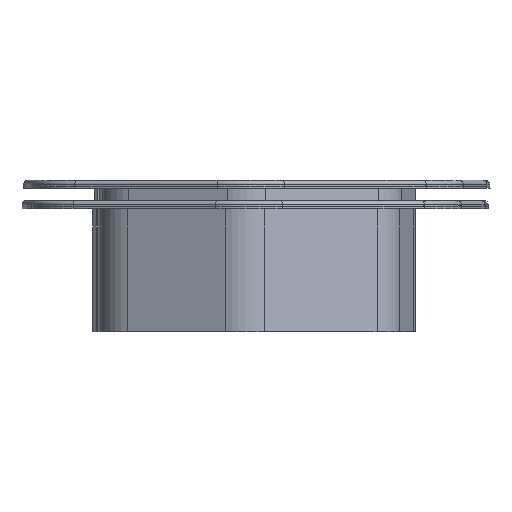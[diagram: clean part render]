
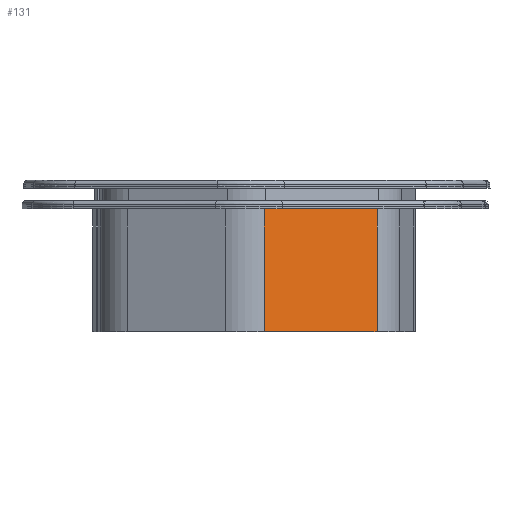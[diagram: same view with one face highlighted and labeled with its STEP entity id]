
A CAD part, left-side view. The second image highlights one B-rep face of the part: STEP entity #131.
In plain terms, the highlighted free-form (B-spline) face has degree [2, 1] with [3, 2] control points.
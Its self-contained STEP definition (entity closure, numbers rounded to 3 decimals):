
#131=ADVANCED_FACE('',(#323),#2885,.T.);
#323=FACE_OUTER_BOUND('',#515,.T.);
#515=EDGE_LOOP('',(#1076,#1077,#1078,#1079));
#1076=ORIENTED_EDGE('',*,*,#1798,.T.);
#1077=ORIENTED_EDGE('',*,*,#1799,.T.);
#1078=ORIENTED_EDGE('',*,*,#1800,.F.);
#1079=ORIENTED_EDGE('',*,*,#1796,.F.);
#1796=EDGE_CURVE('',#2644,#2645,#2269,.T.);
#1798=EDGE_CURVE('',#2644,#2646,#2271,.T.);
#1799=EDGE_CURVE('',#2646,#2647,#2272,.T.);
#1800=EDGE_CURVE('',#2645,#2647,#2273,.T.);
#2269=(
BOUNDED_CURVE()
B_SPLINE_CURVE(1,(#4954,#4955),.UNSPECIFIED.,.F.,.F.)
B_SPLINE_CURVE_WITH_KNOTS((2,2),(0.,300.),.UNSPECIFIED.)
CURVE()
GEOMETRIC_REPRESENTATION_ITEM()
RATIONAL_B_SPLINE_CURVE((1.,1.))
REPRESENTATION_ITEM('')
);
#2271=(
BOUNDED_CURVE()
B_SPLINE_CURVE(2,(#4959,#4960,#4961),.UNSPECIFIED.,.F.,.F.)
B_SPLINE_CURVE_WITH_KNOTS((3,3),(-1038.679,-729.495),
 .UNSPECIFIED.)
CURVE()
GEOMETRIC_REPRESENTATION_ITEM()
RATIONAL_B_SPLINE_CURVE((1.,1.,1.))
REPRESENTATION_ITEM('')
);
#2272=(
BOUNDED_CURVE()
B_SPLINE_CURVE(1,(#4962,#4963),.UNSPECIFIED.,.F.,.F.)
B_SPLINE_CURVE_WITH_KNOTS((2,2),(0.,300.),.UNSPECIFIED.)
CURVE()
GEOMETRIC_REPRESENTATION_ITEM()
RATIONAL_B_SPLINE_CURVE((1.,1.))
REPRESENTATION_ITEM('')
);
#2273=(
BOUNDED_CURVE()
B_SPLINE_CURVE(2,(#4964,#4965,#4966),.UNSPECIFIED.,.F.,.F.)
B_SPLINE_CURVE_WITH_KNOTS((3,3),(-1038.679,-729.495),
 .UNSPECIFIED.)
CURVE()
GEOMETRIC_REPRESENTATION_ITEM()
RATIONAL_B_SPLINE_CURVE((1.,1.,1.))
REPRESENTATION_ITEM('')
);
#2644=VERTEX_POINT('',#4847);
#2645=VERTEX_POINT('',#4848);
#2646=VERTEX_POINT('',#4849);
#2647=VERTEX_POINT('',#4850);
#2885=(
BOUNDED_SURFACE()
B_SPLINE_SURFACE(2,1,((#4801,#4802),(#4803,#4804),(#4805,#4806)),
 .UNSPECIFIED.,.F.,.F.,.F.)
B_SPLINE_SURFACE_WITH_KNOTS((3,3),(2,2),(-1038.679,-729.495),
(0.,300.),.UNSPECIFIED.)
GEOMETRIC_REPRESENTATION_ITEM()
RATIONAL_B_SPLINE_SURFACE(((1.,1.),(1.,1.),(1.,1.)))
REPRESENTATION_ITEM('')
SURFACE()
);
#4801=CARTESIAN_POINT('',(-13.92,139.104,0.));
#4802=CARTESIAN_POINT('',(-13.92,139.104,-300.));
#4803=CARTESIAN_POINT('',(-84.065,276.866,0.));
#4804=CARTESIAN_POINT('',(-84.065,276.866,-300.));
#4805=CARTESIAN_POINT('',(-154.211,414.627,0.));
#4806=CARTESIAN_POINT('',(-154.211,414.627,-300.));
#4847=CARTESIAN_POINT('',(-13.92,139.104,0.));
#4848=CARTESIAN_POINT('',(-13.92,139.104,-300.));
#4849=CARTESIAN_POINT('',(-154.211,414.627,0.));
#4850=CARTESIAN_POINT('',(-154.211,414.627,-300.));
#4954=CARTESIAN_POINT('',(-13.92,139.104,0.));
#4955=CARTESIAN_POINT('',(-13.92,139.104,-300.));
#4959=CARTESIAN_POINT('',(-13.92,139.104,0.));
#4960=CARTESIAN_POINT('',(-84.065,276.866,0.));
#4961=CARTESIAN_POINT('',(-154.211,414.627,0.));
#4962=CARTESIAN_POINT('',(-154.211,414.627,0.));
#4963=CARTESIAN_POINT('',(-154.211,414.627,-300.));
#4964=CARTESIAN_POINT('',(-13.92,139.104,-300.));
#4965=CARTESIAN_POINT('',(-84.065,276.866,-300.));
#4966=CARTESIAN_POINT('',(-154.211,414.627,-300.));
